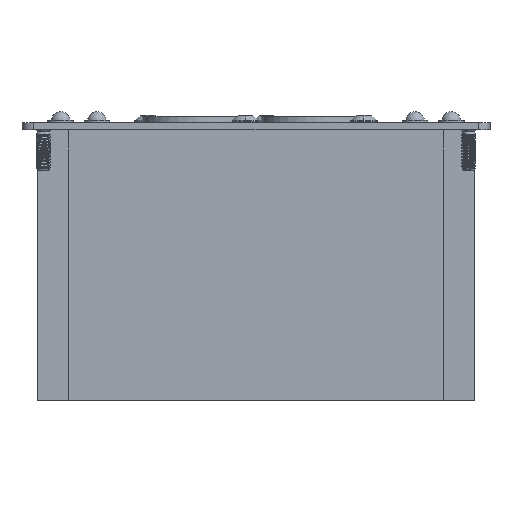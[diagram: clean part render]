
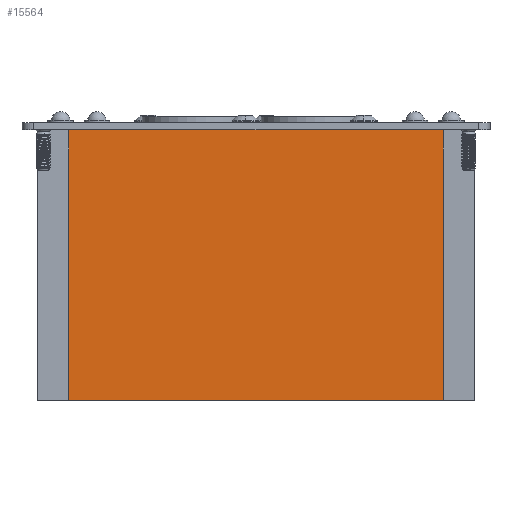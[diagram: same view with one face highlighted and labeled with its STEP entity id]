
A CAD part, front view. The second image highlights one B-rep face of the part: STEP entity #15564.
In plain terms, the highlighted planar face has unit normal (0, -1, 0) as drawn and (0, 0, 1) by its records, which use the part's own axes.
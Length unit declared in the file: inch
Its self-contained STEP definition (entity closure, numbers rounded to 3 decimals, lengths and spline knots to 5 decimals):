
#534 = EDGE_CURVE ( 'NONE', #1015, #1070, #17846, .T. ) ;
#535 = EDGE_CURVE ( 'NONE', #1070, #1140, #17848, .T. ) ;
#546 = EDGE_CURVE ( 'NONE', #1015, #1048, #17864, .T. ) ;
#548 = EDGE_CURVE ( 'NONE', #1048, #1140, #17866, .T. ) ;
#1015 = VERTEX_POINT ( 'NONE', #2584 ) ;
#1048 = VERTEX_POINT ( 'NONE', #2617 ) ;
#1070 = VERTEX_POINT ( 'NONE', #2649 ) ;
#1140 = VERTEX_POINT ( 'NONE', #2761 ) ;
#2584 = CARTESIAN_POINT ( 'NONE',  ( -1.12375, 2.16535, 0.63706 ) ) ;
#2617 = CARTESIAN_POINT ( 'NONE',  ( -1.12375, 0., 0.63706 ) ) ;
#2649 = CARTESIAN_POINT ( 'NONE',  ( 1.87625, 2.16535, 0.63706 ) ) ;
#2761 = CARTESIAN_POINT ( 'NONE',  ( 1.87625, 0., 0.63706 ) ) ;
#5067 = AXIS2_PLACEMENT_3D ( 'NONE', #9683, #9688, #9689 ) ;
#5673 = FACE_OUTER_BOUND ( 'NONE', #7020, .T. ) ;
#7020 = EDGE_LOOP ( 'NONE', ( #7197, #7198, #7199, #7200 ) ) ;
#7197 = ORIENTED_EDGE ( 'NONE', *, *, #548, .T. ) ;
#7198 = ORIENTED_EDGE ( 'NONE', *, *, #535, .F. ) ;
#7199 = ORIENTED_EDGE ( 'NONE', *, *, #534, .F. ) ;
#7200 = ORIENTED_EDGE ( 'NONE', *, *, #546, .T. ) ;
#9682 = PLANE ( 'NONE',  #5067 ) ;
#9683 = CARTESIAN_POINT ( 'NONE',  ( -1.12375, 2.16535, 0.63706 ) ) ;
#9688 = DIRECTION ( 'NONE',  ( 0., 0., -1. ) ) ;
#9689 = DIRECTION ( 'NONE',  ( -1., 0., 0. ) ) ;
#15564 = ADVANCED_FACE ( 'NONE', ( #5673 ), #9682, .F. ) ;
#17412 = CARTESIAN_POINT ( 'NONE',  ( -1.12375, 0., 0.63706 ) ) ;
#17446 = CARTESIAN_POINT ( 'NONE',  ( -1.12375, 2.16535, 0.63706 ) ) ;
#17466 = DIRECTION ( 'NONE',  ( 1., 0., 0. ) ) ;
#17497 = DIRECTION ( 'NONE',  ( 0., -1., 0. ) ) ;
#17846 = LINE ( 'NONE', #18781, #17849 ) ;
#17848 = LINE ( 'NONE', #18577, #17851 ) ;
#17849 = VECTOR ( 'NONE', #18627, 39.37008 ) ;
#17851 = VECTOR ( 'NONE', #18636, 39.37008 ) ;
#17864 = LINE ( 'NONE', #17446, #17867 ) ;
#17866 = LINE ( 'NONE', #17412, #17870 ) ;
#17867 = VECTOR ( 'NONE', #17497, 39.37008 ) ;
#17870 = VECTOR ( 'NONE', #17466, 39.37008 ) ;
#18577 = CARTESIAN_POINT ( 'NONE',  ( 1.87625, 2.16535, 0.63706 ) ) ;
#18627 = DIRECTION ( 'NONE',  ( 1., 0., 0. ) ) ;
#18636 = DIRECTION ( 'NONE',  ( 0., -1., 0. ) ) ;
#18781 = CARTESIAN_POINT ( 'NONE',  ( -1.12375, 2.16535, 0.63706 ) ) ;
